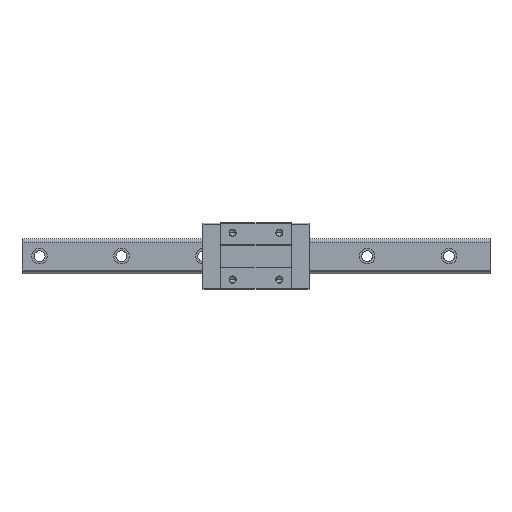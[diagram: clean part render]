
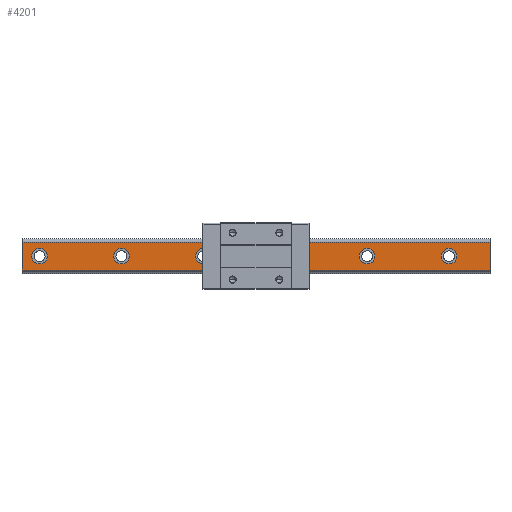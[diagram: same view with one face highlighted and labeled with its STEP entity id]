
A CAD part, top view. The second image highlights one B-rep face of the part: STEP entity #4201.
In plain terms, the highlighted planar face has unit normal (0, 0, 1).
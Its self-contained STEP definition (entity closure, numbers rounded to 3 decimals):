
#101 = VERTEX_POINT ( 'NONE', #2714 ) ;
#109 = VERTEX_POINT ( 'NONE', #188 ) ;
#119 = AXIS2_PLACEMENT_3D ( 'NONE', #908, #929, #2130 ) ;
#131 = DIRECTION ( 'NONE',  ( 1., 0., 0. ) ) ;
#138 = VERTEX_POINT ( 'NONE', #3325 ) ;
#150 = VERTEX_POINT ( 'NONE', #3440 ) ;
#188 = CARTESIAN_POINT ( 'NONE',  ( 27.5, 0., 32. ) ) ;
#190 = ORIENTED_EDGE ( 'NONE', *, *, #3281, .F. ) ;
#196 = CARTESIAN_POINT ( 'NONE',  ( 300., -17.696, 32. ) ) ;
#202 = FACE_BOUND ( 'NONE', #5051, .T. ) ;
#236 = AXIS2_PLACEMENT_3D ( 'NONE', #4601, #763, #2071 ) ;
#242 = CIRCLE ( 'NONE', #2930, 10. ) ;
#295 = CARTESIAN_POINT ( 'NONE',  ( -172.5, 0., 32. ) ) ;
#320 = AXIS2_PLACEMENT_3D ( 'NONE', #3976, #1005, #1844 ) ;
#341 = DIRECTION ( 'NONE',  ( 1., 0., 0. ) ) ;
#462 = ORIENTED_EDGE ( 'NONE', *, *, #1127, .T. ) ;
#477 = VERTEX_POINT ( 'NONE', #1102 ) ;
#508 = EDGE_CURVE ( 'NONE', #5062, #3407, #4962, .T. ) ;
#564 = EDGE_LOOP ( 'NONE', ( #3032, #2159 ) ) ;
#670 = VECTOR ( 'NONE', #1971, 1000. ) ;
#763 = DIRECTION ( 'NONE',  ( 0., 0., 1. ) ) ;
#780 = CIRCLE ( 'NONE', #236, 10. ) ;
#905 = CARTESIAN_POINT ( 'NONE',  ( -267.5, 0., 32. ) ) ;
#908 = CARTESIAN_POINT ( 'NONE',  ( -67.5, 0., 32. ) ) ;
#929 = DIRECTION ( 'NONE',  ( 0., 0., 1. ) ) ;
#1001 = DIRECTION ( 'NONE',  ( 0., 0., 1. ) ) ;
#1005 = DIRECTION ( 'NONE',  ( 0., 0., 1. ) ) ;
#1068 = EDGE_LOOP ( 'NONE', ( #4425, #190 ) ) ;
#1079 = PLANE ( 'NONE',  #2102 ) ;
#1085 = DIRECTION ( 'NONE',  ( -1., 0., 0. ) ) ;
#1086 = EDGE_CURVE ( 'NONE', #2345, #3866, #3277, .T. ) ;
#1092 = EDGE_CURVE ( 'NONE', #3676, #2710, #1397, .T. ) ;
#1102 = CARTESIAN_POINT ( 'NONE',  ( 300., 17.696, 32. ) ) ;
#1127 = EDGE_CURVE ( 'NONE', #477, #3615, #1894, .T. ) ;
#1133 = ORIENTED_EDGE ( 'NONE', *, *, #3858, .F. ) ;
#1151 = CARTESIAN_POINT ( 'NONE',  ( -300., 17.696, 32. ) ) ;
#1185 = FACE_BOUND ( 'NONE', #2893, .T. ) ;
#1267 = CARTESIAN_POINT ( 'NONE',  ( -300., -17.696, 32. ) ) ;
#1302 = CARTESIAN_POINT ( 'NONE',  ( 142.5, 0., 32. ) ) ;
#1310 = AXIS2_PLACEMENT_3D ( 'NONE', #4431, #4404, #131 ) ;
#1322 = CIRCLE ( 'NONE', #2855, 10. ) ;
#1343 = VERTEX_POINT ( 'NONE', #3530 ) ;
#1397 = CIRCLE ( 'NONE', #320, 10. ) ;
#1406 = CIRCLE ( 'NONE', #3289, 10. ) ;
#1460 = DIRECTION ( 'NONE',  ( 0., 0., 1. ) ) ;
#1471 = CARTESIAN_POINT ( 'NONE',  ( 132.5, 0., 32. ) ) ;
#1502 = FACE_BOUND ( 'NONE', #1068, .T. ) ;
#1535 = EDGE_CURVE ( 'NONE', #150, #3341, #3203, .T. ) ;
#1605 = CARTESIAN_POINT ( 'NONE',  ( 247.5, 0., 32. ) ) ;
#1682 = DIRECTION ( 'NONE',  ( 1., 0., 0. ) ) ;
#1729 = CARTESIAN_POINT ( 'NONE',  ( 47.5, 0., 32. ) ) ;
#1744 = EDGE_CURVE ( 'NONE', #3866, #2345, #5032, .T. ) ;
#1822 = CIRCLE ( 'NONE', #119, 10. ) ;
#1844 = DIRECTION ( 'NONE',  ( 1., 0., 0. ) ) ;
#1894 = LINE ( 'NONE', #4597, #5397 ) ;
#1896 = DIRECTION ( 'NONE',  ( 0., 0., 1. ) ) ;
#1918 = FACE_BOUND ( 'NONE', #1990, .T. ) ;
#1919 = CARTESIAN_POINT ( 'NONE',  ( -67.5, 0., 32. ) ) ;
#1971 = DIRECTION ( 'NONE',  ( -1., 0., 0. ) ) ;
#1983 = EDGE_CURVE ( 'NONE', #4681, #138, #1406, .T. ) ;
#1990 = EDGE_LOOP ( 'NONE', ( #5592, #1133 ) ) ;
#2019 = ORIENTED_EDGE ( 'NONE', *, *, #5348, .F. ) ;
#2038 = ORIENTED_EDGE ( 'NONE', *, *, #2040, .T. ) ;
#2040 = EDGE_CURVE ( 'NONE', #3615, #3407, #4664, .T. ) ;
#2066 = AXIS2_PLACEMENT_3D ( 'NONE', #3949, #3001, #1682 ) ;
#2071 = DIRECTION ( 'NONE',  ( 1., 0., 0. ) ) ;
#2078 = CARTESIAN_POINT ( 'NONE',  ( -277.5, 0., 32. ) ) ;
#2083 = DIRECTION ( 'NONE',  ( -1., 0., 0. ) ) ;
#2102 = AXIS2_PLACEMENT_3D ( 'NONE', #2111, #3811, #2083 ) ;
#2111 = CARTESIAN_POINT ( 'NONE',  ( 300., -17.696, 32. ) ) ;
#2130 = DIRECTION ( 'NONE',  ( 1., 0., 0. ) ) ;
#2159 = ORIENTED_EDGE ( 'NONE', *, *, #4988, .F. ) ;
#2163 = DIRECTION ( 'NONE',  ( 0., 0., 1. ) ) ;
#2180 = AXIS2_PLACEMENT_3D ( 'NONE', #295, #1896, #3658 ) ;
#2311 = EDGE_CURVE ( 'NONE', #101, #1343, #3906, .T. ) ;
#2328 = ORIENTED_EDGE ( 'NONE', *, *, #1983, .F. ) ;
#2332 = LINE ( 'NONE', #196, #3291 ) ;
#2345 = VERTEX_POINT ( 'NONE', #2833 ) ;
#2467 = VERTEX_POINT ( 'NONE', #1729 ) ;
#2597 = DIRECTION ( 'NONE',  ( 0., 0., 1. ) ) ;
#2667 = AXIS2_PLACEMENT_3D ( 'NONE', #2078, #4214, #341 ) ;
#2679 = EDGE_LOOP ( 'NONE', ( #2038, #4930, #4673, #462 ) ) ;
#2710 = VERTEX_POINT ( 'NONE', #2858 ) ;
#2714 = CARTESIAN_POINT ( 'NONE',  ( -162.5, 0., 32. ) ) ;
#2790 = CARTESIAN_POINT ( 'NONE',  ( 300., -17.696, 32. ) ) ;
#2833 = CARTESIAN_POINT ( 'NONE',  ( 152.5, 0., 32. ) ) ;
#2855 = AXIS2_PLACEMENT_3D ( 'NONE', #1605, #3839, #3316 ) ;
#2858 = CARTESIAN_POINT ( 'NONE',  ( 237.5, 0., 32. ) ) ;
#2893 = EDGE_LOOP ( 'NONE', ( #2328, #5421 ) ) ;
#2896 = FACE_BOUND ( 'NONE', #4497, .T. ) ;
#2930 = AXIS2_PLACEMENT_3D ( 'NONE', #4766, #2597, #4362 ) ;
#2977 = CARTESIAN_POINT ( 'NONE',  ( 300., -17.696, 32. ) ) ;
#3001 = DIRECTION ( 'NONE',  ( 0., 0., 1. ) ) ;
#3032 = ORIENTED_EDGE ( 'NONE', *, *, #1535, .F. ) ;
#3179 = EDGE_CURVE ( 'NONE', #477, #5062, #2332, .T. ) ;
#3182 = DIRECTION ( 'NONE',  ( 1., 0., 0. ) ) ;
#3203 = CIRCLE ( 'NONE', #3564, 10. ) ;
#3222 = FACE_BOUND ( 'NONE', #564, .T. ) ;
#3277 = CIRCLE ( 'NONE', #1310, 10. ) ;
#3281 = EDGE_CURVE ( 'NONE', #2710, #3676, #1322, .T. ) ;
#3289 = AXIS2_PLACEMENT_3D ( 'NONE', #5354, #1460, #3182 ) ;
#3291 = VECTOR ( 'NONE', #3585, 1000. ) ;
#3316 = DIRECTION ( 'NONE',  ( 1., 0., 0. ) ) ;
#3325 = CARTESIAN_POINT ( 'NONE',  ( -287.5, 0., 32. ) ) ;
#3333 = EDGE_CURVE ( 'NONE', #138, #4681, #4579, .T. ) ;
#3341 = VERTEX_POINT ( 'NONE', #3805 ) ;
#3407 = VERTEX_POINT ( 'NONE', #1267 ) ;
#3440 = CARTESIAN_POINT ( 'NONE',  ( -57.5, 0., 32. ) ) ;
#3530 = CARTESIAN_POINT ( 'NONE',  ( -182.5, 0., 32. ) ) ;
#3564 = AXIS2_PLACEMENT_3D ( 'NONE', #1919, #1001, #5401 ) ;
#3585 = DIRECTION ( 'NONE',  ( 0., -1., 0. ) ) ;
#3615 = VERTEX_POINT ( 'NONE', #1151 ) ;
#3650 = EDGE_CURVE ( 'NONE', #2467, #109, #780, .T. ) ;
#3658 = DIRECTION ( 'NONE',  ( 1., 0., 0. ) ) ;
#3676 = VERTEX_POINT ( 'NONE', #5087 ) ;
#3754 = DIRECTION ( 'NONE',  ( 0., -1., 0. ) ) ;
#3805 = CARTESIAN_POINT ( 'NONE',  ( -77.5, 0., 32. ) ) ;
#3811 = DIRECTION ( 'NONE',  ( 0., 0., -1. ) ) ;
#3839 = DIRECTION ( 'NONE',  ( 0., 0., 1. ) ) ;
#3858 = EDGE_CURVE ( 'NONE', #1343, #101, #242, .T. ) ;
#3866 = VERTEX_POINT ( 'NONE', #1471 ) ;
#3906 = CIRCLE ( 'NONE', #2180, 10. ) ;
#3949 = CARTESIAN_POINT ( 'NONE',  ( 37.5, 0., 32. ) ) ;
#3976 = CARTESIAN_POINT ( 'NONE',  ( 247.5, 0., 32. ) ) ;
#4031 = VECTOR ( 'NONE', #3754, 1000. ) ;
#4196 = ORIENTED_EDGE ( 'NONE', *, *, #1086, .F. ) ;
#4201 = ADVANCED_FACE ( 'NONE', ( #1185, #1918, #3222, #2896, #202, #1502, #4965 ), #1079, .F. ) ;
#4214 = DIRECTION ( 'NONE',  ( 0., 0., 1. ) ) ;
#4362 = DIRECTION ( 'NONE',  ( 1., 0., 0. ) ) ;
#4404 = DIRECTION ( 'NONE',  ( 0., 0., 1. ) ) ;
#4425 = ORIENTED_EDGE ( 'NONE', *, *, #1092, .F. ) ;
#4431 = CARTESIAN_POINT ( 'NONE',  ( 142.5, 0., 32. ) ) ;
#4497 = EDGE_LOOP ( 'NONE', ( #4779, #2019 ) ) ;
#4518 = CIRCLE ( 'NONE', #2066, 10. ) ;
#4579 = CIRCLE ( 'NONE', #2667, 10. ) ;
#4597 = CARTESIAN_POINT ( 'NONE',  ( 300., 17.696, 32. ) ) ;
#4601 = CARTESIAN_POINT ( 'NONE',  ( 37.5, 0., 32. ) ) ;
#4605 = CARTESIAN_POINT ( 'NONE',  ( -300., -17.696, 32. ) ) ;
#4664 = LINE ( 'NONE', #4605, #4031 ) ;
#4673 = ORIENTED_EDGE ( 'NONE', *, *, #3179, .F. ) ;
#4681 = VERTEX_POINT ( 'NONE', #905 ) ;
#4766 = CARTESIAN_POINT ( 'NONE',  ( -172.5, 0., 32. ) ) ;
#4779 = ORIENTED_EDGE ( 'NONE', *, *, #3650, .F. ) ;
#4930 = ORIENTED_EDGE ( 'NONE', *, *, #508, .F. ) ;
#4944 = AXIS2_PLACEMENT_3D ( 'NONE', #1302, #2163, #5272 ) ;
#4962 = LINE ( 'NONE', #2790, #670 ) ;
#4965 = FACE_OUTER_BOUND ( 'NONE', #2679, .T. ) ;
#4988 = EDGE_CURVE ( 'NONE', #3341, #150, #1822, .T. ) ;
#5032 = CIRCLE ( 'NONE', #4944, 10. ) ;
#5051 = EDGE_LOOP ( 'NONE', ( #4196, #5059 ) ) ;
#5059 = ORIENTED_EDGE ( 'NONE', *, *, #1744, .F. ) ;
#5062 = VERTEX_POINT ( 'NONE', #2977 ) ;
#5087 = CARTESIAN_POINT ( 'NONE',  ( 257.5, 0., 32. ) ) ;
#5272 = DIRECTION ( 'NONE',  ( 1., 0., 0. ) ) ;
#5348 = EDGE_CURVE ( 'NONE', #109, #2467, #4518, .T. ) ;
#5354 = CARTESIAN_POINT ( 'NONE',  ( -277.5, 0., 32. ) ) ;
#5397 = VECTOR ( 'NONE', #1085, 1000. ) ;
#5401 = DIRECTION ( 'NONE',  ( 1., 0., 0. ) ) ;
#5421 = ORIENTED_EDGE ( 'NONE', *, *, #3333, .F. ) ;
#5592 = ORIENTED_EDGE ( 'NONE', *, *, #2311, .F. ) ;
